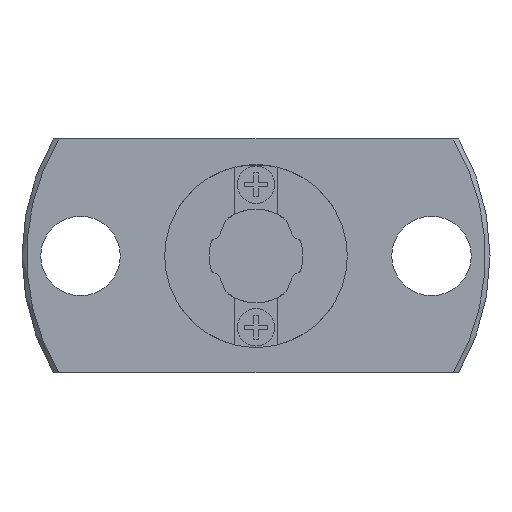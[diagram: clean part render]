
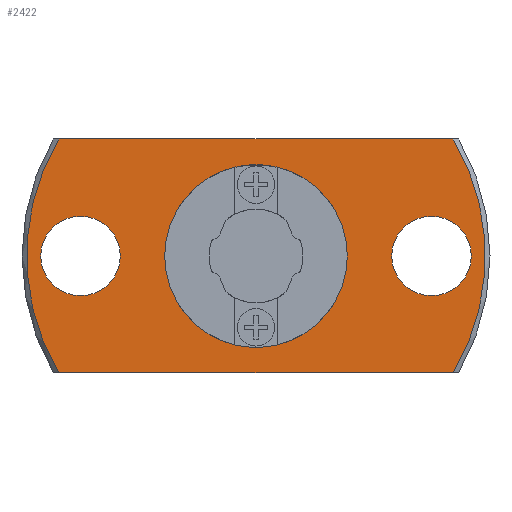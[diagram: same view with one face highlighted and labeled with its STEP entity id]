
A CAD part, left-side view. The second image highlights one B-rep face of the part: STEP entity #2422.
In plain terms, the highlighted planar face has unit normal (-1, 0, 0).
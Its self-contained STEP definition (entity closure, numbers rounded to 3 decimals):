
#56=PLANE('',#2670);
#216=LINE('',#3894,#456);
#217=LINE('',#3895,#457);
#456=VECTOR('',#3126,1000.);
#457=VECTOR('',#3127,1000.);
#857=ORIENTED_EDGE('',*,*,#1493,.F.);
#858=ORIENTED_EDGE('',*,*,#1494,.T.);
#859=ORIENTED_EDGE('',*,*,#1380,.F.);
#860=ORIENTED_EDGE('',*,*,#1495,.T.);
#861=ORIENTED_EDGE('',*,*,#1496,.F.);
#862=ORIENTED_EDGE('',*,*,#1497,.F.);
#863=ORIENTED_EDGE('',*,*,#1442,.T.);
#1380=EDGE_CURVE('',#1714,#1715,#1947,.T.);
#1442=EDGE_CURVE('',#1774,#1774,#1972,.T.);
#1493=EDGE_CURVE('',#1815,#1816,#1999,.T.);
#1494=EDGE_CURVE('',#1815,#1715,#216,.T.);
#1495=EDGE_CURVE('',#1714,#1816,#217,.T.);
#1496=EDGE_CURVE('',#1817,#1817,#2000,.F.);
#1497=EDGE_CURVE('',#1818,#1818,#2001,.F.);
#1714=VERTEX_POINT('',#3656);
#1715=VERTEX_POINT('',#3658);
#1774=VERTEX_POINT('',#3795);
#1815=VERTEX_POINT('',#3892);
#1816=VERTEX_POINT('',#3893);
#1817=VERTEX_POINT('',#3897);
#1818=VERTEX_POINT('',#3899);
#1947=CIRCLE('',#2607,9.8);
#1972=CIRCLE('',#2639,3.9);
#1999=CIRCLE('',#2671,9.8);
#2000=CIRCLE('',#2672,1.7);
#2001=CIRCLE('',#2673,1.7);
#2057=EDGE_LOOP('',(#857,#858,#859,#860));
#2058=EDGE_LOOP('',(#861));
#2059=EDGE_LOOP('',(#862));
#2060=EDGE_LOOP('',(#863));
#2219=FACE_BOUND('',#2057,.T.);
#2220=FACE_BOUND('',#2058,.T.);
#2221=FACE_BOUND('',#2059,.T.);
#2222=FACE_BOUND('',#2060,.T.);
#2422=ADVANCED_FACE('',(#2219,#2220,#2221,#2222),#56,.F.);
#2607=AXIS2_PLACEMENT_3D('',#3657,#2938,#2939);
#2639=AXIS2_PLACEMENT_3D('',#3794,#3036,#3037);
#2670=AXIS2_PLACEMENT_3D('',#3890,#3122,#3123);
#2671=AXIS2_PLACEMENT_3D('',#3891,#3124,#3125);
#2672=AXIS2_PLACEMENT_3D('',#3896,#3128,#3129);
#2673=AXIS2_PLACEMENT_3D('',#3898,#3130,#3131);
#2938=DIRECTION('',(1.,0.,0.));
#2939=DIRECTION('',(0.,0.,-1.));
#3036=DIRECTION('',(1.,0.,0.));
#3037=DIRECTION('',(0.,0.,-1.));
#3122=DIRECTION('',(1.,0.,0.));
#3123=DIRECTION('',(0.,0.,-1.));
#3124=DIRECTION('',(1.,0.,0.));
#3125=DIRECTION('',(0.,0.,-1.));
#3126=DIRECTION('',(0.,-1.,0.));
#3127=DIRECTION('',(0.,1.,0.));
#3128=DIRECTION('',(1.,0.,0.));
#3129=DIRECTION('',(0.,0.,-1.));
#3130=DIRECTION('',(1.,0.,0.));
#3131=DIRECTION('',(0.,0.,-1.));
#3656=CARTESIAN_POINT('',(-3.75,-8.429,5.));
#3657=CARTESIAN_POINT('',(-3.75,0.,0.));
#3658=CARTESIAN_POINT('',(-3.75,-8.429,-5.));
#3794=CARTESIAN_POINT('',(-3.75,0.,0.));
#3795=CARTESIAN_POINT('',(-3.75,0.,-3.9));
#3890=CARTESIAN_POINT('',(-3.75,3.9,0.));
#3891=CARTESIAN_POINT('',(-3.75,0.,0.));
#3892=CARTESIAN_POINT('',(-3.75,8.429,-5.));
#3893=CARTESIAN_POINT('',(-3.75,8.429,5.));
#3894=CARTESIAN_POINT('',(-3.75,3.9,-5.));
#3895=CARTESIAN_POINT('',(-3.75,3.9,5.));
#3896=CARTESIAN_POINT('',(-3.75,7.5,0.));
#3897=CARTESIAN_POINT('',(-3.75,7.5,-1.7));
#3898=CARTESIAN_POINT('',(-3.75,-7.5,0.));
#3899=CARTESIAN_POINT('',(-3.75,-7.5,-1.7));
